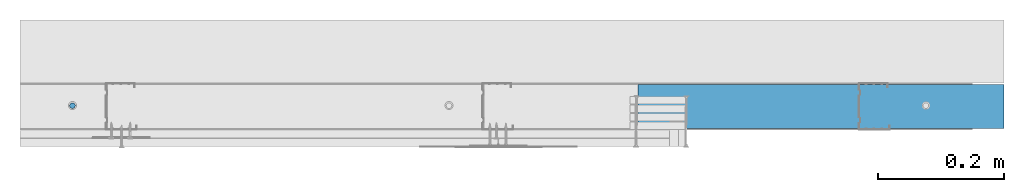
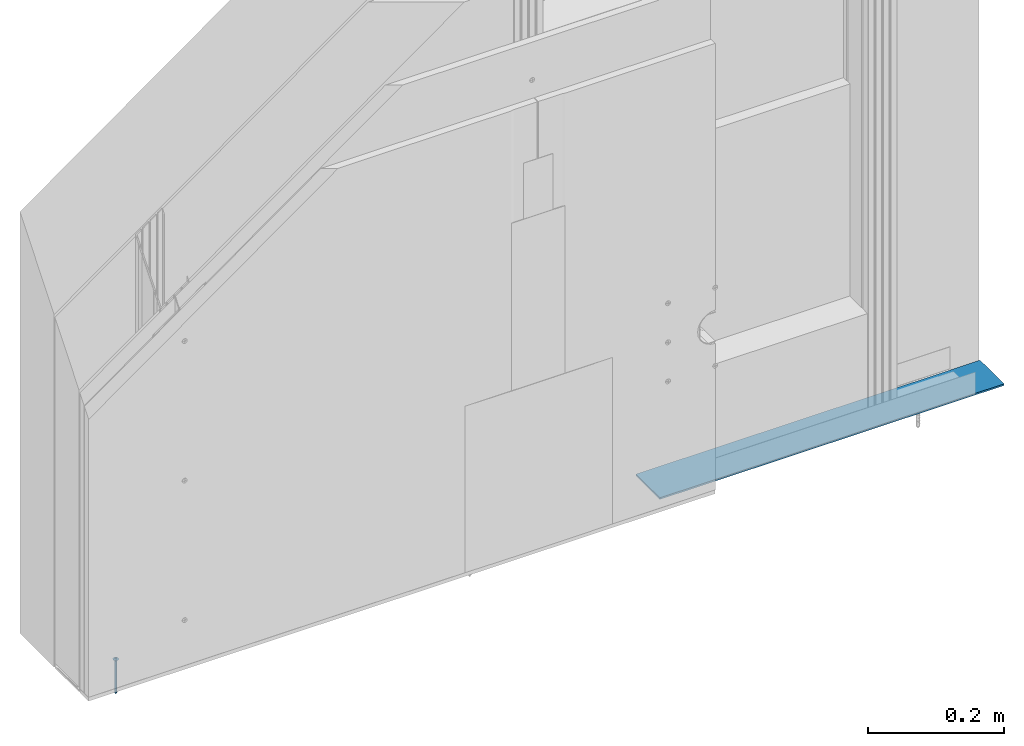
# One storey, part 4 of 32: 2 walls.
"""IFC2X3 building model written with IfcOpenShell, lengths in millimetres."""

from ifc_helpers import new_model, entity, si_unit, converted_unit, direction, frame, origin, origin_with_axes, place, context, project, spatial, faceted_brep, element, save


model = new_model("IFC2X3")

# Units and contexts
model_context = context("Model", 3, precision=1e-05, world=origin(), true_north=direction((0.0, 1.0, 0.0)))
ifc_project = project(units=[si_unit("LENGTHUNIT", "METRE", prefix="MILLI"), si_unit("AREAUNIT", "SQUARE_METRE"), si_unit("VOLUMEUNIT", "CUBIC_METRE"), converted_unit("PLANEANGLEUNIT", "DEGREE", entity("IfcPlaneAngleMeasure", 0.01745), si_unit("PLANEANGLEUNIT", "RADIAN"), dimensions=[0, 0, 0, 0, 0, 0, 0]), si_unit("SOLIDANGLEUNIT", "STERADIAN"), si_unit("MASSUNIT", "GRAM"), si_unit("TIMEUNIT", "SECOND"), si_unit("THERMODYNAMICTEMPERATUREUNIT", "DEGREE_CELSIUS"), si_unit("LUMINOUSINTENSITYUNIT", "LUMEN")], contexts=[model_context])

# Site, building, storey
site_placement = place(None, origin_with_axes())
site = spatial("IfcSite", under=ifc_project, at=site_placement, Name="Default Site", CompositionType="ELEMENT")
building_placement = place(site_placement, origin_with_axes())
building = spatial("IfcBuilding", under=site, at=building_placement, Name="Default Building", CompositionType="ELEMENT")
storey_placement = place(building_placement, origin_with_axes())
storey = spatial("IfcBuildingStorey", under=building, at=storey_placement, Name="Default Building Storey", CompositionType="ELEMENT", Elevation=0.0)

# Walls
wall_1_placement = place(storey_placement, frame((3642.454370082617, 5439.424146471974, 10.39039522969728), z_axis=(7.620176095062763e-14, -6.858158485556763e-13, 1.0), x_axis=(1.0, -9.714451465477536e-17, -7.620176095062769e-14)))
element("IfcWall", 1, at=wall_1_placement, inside=storey, Name="Kołek rozporowy min. fi 6", context=model_context, shape_type="Brep", body=[
    faceted_brep([(-1438.31414949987, -3453.283223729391, -0.4642567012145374), (-1435.814149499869, -3453.283223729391, -3.464256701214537), (-1435.78952618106, -3452.97035479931, -3.464256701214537), (-1438.258747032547, -3452.57926863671, -0.4642567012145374), (-1435.71626253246, -3452.665189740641, -3.464256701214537), (-1438.093903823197, -3451.892647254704, -0.4642567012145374), (-1435.596162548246, -3452.375242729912, -3.464256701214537), (-1437.823678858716, -3451.240266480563, -0.4642567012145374), (-1435.432183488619, -3452.107653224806, -3.464256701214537), (-1437.454725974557, -3450.638190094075, -0.4642567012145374), (-1435.228363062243, -3451.869010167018, -3.464256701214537), (-1436.996130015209, -3450.101243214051, -0.4642567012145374), (-1434.989720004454, -3451.665189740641, -3.464256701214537), (-1436.459183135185, -3449.642647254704, -0.4642567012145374), (-1434.722130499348, -3451.501210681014, -3.464256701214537), (-1435.857106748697, -3449.273694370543, -0.4642567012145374), (-1434.432183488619, -3451.381110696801, -3.464256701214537), (-1435.204725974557, -3449.003469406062, -0.4642567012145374), (-1434.12701842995, -3451.307847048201, -3.464256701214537), (-1434.51810459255, -3448.838626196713, -0.4642567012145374), (-1433.814149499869, -3451.283223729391, -3.464256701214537), (-1433.814149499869, -3448.783223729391, -0.4642567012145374), (-1433.501280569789, -3451.307847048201, -3.464256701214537), (-1433.110194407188, -3448.838626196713, -0.4642567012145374), (-1433.19611551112, -3451.381110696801, -3.464256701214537), (-1432.423573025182, -3449.003469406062, -0.4642567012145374), (-1432.906168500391, -3451.501210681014, -3.464256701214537), (-1431.771192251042, -3449.273694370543, -0.4642567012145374), (-1432.638578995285, -3451.665189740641, -3.464256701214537), (-1431.169115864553, -3449.642647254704, -0.4642567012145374), (-1432.399935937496, -3451.869010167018, -3.464256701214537), (-1430.63216898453, -3450.101243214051, -0.4642567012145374), (-1432.196115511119, -3452.107653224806, -3.464256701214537), (-1430.173573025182, -3450.638190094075, -0.4642567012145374), (-1432.032136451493, -3452.375242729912, -3.464256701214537), (-1429.804620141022, -3451.240266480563, -0.4642567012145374), (-1431.912036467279, -3452.665189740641, -3.464256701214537), (-1429.534395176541, -3451.892647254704, -0.4642567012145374), (-1431.838772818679, -3453.596092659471, -3.464256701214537), (-1429.369551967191, -3453.987178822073, -0.4642567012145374), (-1429.314149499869, -3453.283223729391, -0.4642567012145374), (-1431.81414949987, -3453.283223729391, -3.464256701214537), (-1429.369551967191, -3452.57926863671, -0.4642567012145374), (-1431.838772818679, -3452.97035479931, -3.464256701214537), (-1431.912036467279, -3453.901257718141, -3.464256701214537), (-1429.534395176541, -3454.673800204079, -0.4642567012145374), (-1432.032136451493, -3454.19120472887, -3.464256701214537), (-1429.804620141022, -3455.326180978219, -0.4642567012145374), (-1432.196115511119, -3454.458794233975, -3.464256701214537), (-1430.173573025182, -3455.928257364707, -0.4642567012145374), (-1432.399935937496, -3454.697437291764, -3.464256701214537), (-1430.63216898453, -3456.465204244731, -0.4642567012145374), (-1432.638578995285, -3454.901257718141, -3.464256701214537), (-1431.169115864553, -3456.923800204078, -0.4642567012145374), (-1432.906168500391, -3455.065236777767, -3.464256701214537), (-1431.771192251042, -3457.292753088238, -0.4642567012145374), (-1433.19611551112, -3455.185336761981, -3.464256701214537), (-1432.423573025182, -3457.562978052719, -0.4642567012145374), (-1433.501280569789, -3455.258600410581, -3.464256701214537), (-1433.110194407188, -3457.727821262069, -0.4642567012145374), (-1433.814149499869, -3455.283223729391, -3.464256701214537), (-1433.814149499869, -3457.783223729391, -0.4642567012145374), (-1434.34306778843, -3457.752031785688, -0.4642567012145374), (-1434.12701842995, -3455.258600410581, -3.464256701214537), (-1434.432183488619, -3455.185336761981, -3.464256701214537), (-1434.864653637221, -3457.658888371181, -0.4642567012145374), (-1435.371676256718, -3457.505084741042, -0.4642567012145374), (-1434.722130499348, -3455.065236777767, -3.464256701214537), (-1435.857106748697, -3457.292753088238, -0.4642567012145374), (-1434.989720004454, -3454.901257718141, -3.464256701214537), (-1435.228363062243, -3454.697437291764, -3.464256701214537), (-1436.314215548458, -3457.024836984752, -0.4642567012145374), (-1436.736665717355, -3456.705050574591, -0.4642567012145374), (-1437.11860079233, -3456.337827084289, -0.4642567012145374), (-1437.454725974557, -3455.928257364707, -0.4642567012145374), (-1435.432183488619, -3454.458794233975, -3.464256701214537), (-1435.596162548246, -3454.19120472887, -3.464256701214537), (-1437.823678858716, -3455.326180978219, -0.4642567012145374), (-1435.71626253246, -3453.901257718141, -3.464256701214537), (-1438.093903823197, -3454.673800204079, -0.4642567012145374), (-1435.78952618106, -3453.596092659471, -3.464256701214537), (-1438.258747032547, -3453.987178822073, -0.4642567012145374), (-1434.205235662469, -3455.752444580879, 0.2007375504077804), (-1433.814149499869, -3455.78322372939, 0.2007375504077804), (-1434.586691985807, -3455.660865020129, 0.2007375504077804), (-1434.949125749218, -3455.510740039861, 0.2007375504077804), (-1435.283612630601, -3455.305766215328, 0.2007375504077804), (-1435.581916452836, -3455.050990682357, 0.2007375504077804), (-1435.836691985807, -3454.752686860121, 0.2007375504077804), (-1436.04166581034, -3454.41819997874, 0.2007375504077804), (-1436.191790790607, -3454.055766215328, 0.2007375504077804), (-1436.283370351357, -3453.674309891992, 0.2007375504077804), (-1436.314149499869, -3453.283223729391, 0.2007375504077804), (-1436.283370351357, -3452.892137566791, 0.2007375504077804), (-1436.191790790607, -3452.510681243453, 0.2007375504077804), (-1436.04166581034, -3452.148247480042, 0.2007375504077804), (-1435.836691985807, -3451.81376059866, 0.200737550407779), (-1435.581916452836, -3451.515456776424, 0.2007375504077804), (-1435.283612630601, -3451.260681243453, 0.2007375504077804), (-1434.949125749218, -3451.05570741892, 0.2007375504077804), (-1434.586691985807, -3450.905582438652, 0.2007375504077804), (-1433.423063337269, -3450.814002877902, 0.2007375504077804), (-1433.814149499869, -3450.783223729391, 0.2007375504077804), (-1434.205235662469, -3450.814002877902, 0.2007375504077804), (-1433.041607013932, -3450.905582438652, 0.2007375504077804), (-1432.67917325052, -3451.05570741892, 0.2007375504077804), (-1432.344686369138, -3451.260681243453, 0.2007375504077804), (-1432.046382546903, -3451.515456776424, 0.2007375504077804), (-1431.791607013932, -3451.81376059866, 0.2007375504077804), (-1431.586633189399, -3452.148247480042, 0.2007375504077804), (-1431.436508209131, -3452.510681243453, 0.2007375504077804), (-1431.344928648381, -3452.892137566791, 0.2007375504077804), (-1431.314149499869, -3453.283223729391, 0.2007375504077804), (-1431.344928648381, -3453.674309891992, 0.2007375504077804), (-1431.436508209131, -3454.055766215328, 0.2007375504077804), (-1431.586633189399, -3454.41819997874, 0.2007375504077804), (-1431.791607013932, -3454.752686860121, 0.2007375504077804), (-1432.046382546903, -3455.050990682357, 0.2007375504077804), (-1432.344686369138, -3455.305766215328, 0.2007375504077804), (-1432.67917325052, -3455.510740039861, 0.2007375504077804), (-1433.041607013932, -3455.660865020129, 0.2007375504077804), (-1433.423063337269, -3455.752444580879, 0.2007375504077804), (-1433.814149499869, -3453.283223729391, -63.46425670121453), (-1435.789526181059, -3452.97035479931, -60.46425670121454), (-1435.814149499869, -3453.283223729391, -60.46425670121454), (-1435.716262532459, -3452.665189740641, -60.46425670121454), (-1435.596162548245, -3452.375242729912, -60.46425670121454), (-1435.432183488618, -3452.107653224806, -60.46425670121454), (-1435.228363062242, -3451.869010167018, -60.46425670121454), (-1434.989720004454, -3451.665189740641, -60.46425670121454), (-1434.722130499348, -3451.501210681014, -60.46425670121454), (-1434.432183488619, -3451.381110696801, -60.46425670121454), (-1434.127018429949, -3451.307847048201, -60.46425670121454), (-1433.814149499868, -3451.283223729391, -60.46425670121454), (-1433.501280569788, -3451.307847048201, -60.46425670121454), (-1433.196115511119, -3451.381110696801, -60.46425670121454), (-1432.90616850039, -3451.501210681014, -60.46425670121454), (-1432.638578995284, -3451.665189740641, -60.46425670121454), (-1432.399935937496, -3451.869010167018, -60.46425670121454), (-1432.196115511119, -3452.107653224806, -60.46425670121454), (-1432.032136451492, -3452.375242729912, -60.46425670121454), (-1431.912036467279, -3452.665189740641, -60.46425670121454), (-1431.838772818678, -3452.97035479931, -60.46425670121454), (-1431.814149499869, -3453.283223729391, -60.46425670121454), (-1431.838772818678, -3453.596092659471, -60.46425670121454), (-1431.912036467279, -3453.901257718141, -60.46425670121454), (-1432.032136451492, -3454.19120472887, -60.46425670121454), (-1432.196115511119, -3454.458794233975, -60.46425670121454), (-1432.399935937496, -3454.697437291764, -60.46425670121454), (-1432.638578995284, -3454.901257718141, -60.46425670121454), (-1432.90616850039, -3455.065236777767, -60.46425670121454), (-1433.196115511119, -3455.185336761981, -60.46425670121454), (-1433.501280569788, -3455.258600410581, -60.46425670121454), (-1433.814149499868, -3455.283223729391, -60.46425670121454), (-1434.127018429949, -3455.258600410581, -60.46425670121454), (-1434.432183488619, -3455.185336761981, -60.46425670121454), (-1434.722130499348, -3455.065236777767, -60.46425670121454), (-1434.989720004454, -3454.901257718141, -60.46425670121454), (-1435.228363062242, -3454.697437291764, -60.46425670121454), (-1435.432183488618, -3454.458794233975, -60.46425670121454), (-1435.596162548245, -3454.19120472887, -60.46425670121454), (-1435.716262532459, -3453.901257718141, -60.46425670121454), (-1435.789526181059, -3453.596092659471, -60.46425670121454), (-1435.814149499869, -3453.783223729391, 0.04999999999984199), (-1436.04166581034, -3454.41819997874, 0.04999999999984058), (-1436.191790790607, -3454.055766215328, 0.04999999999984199), (-1435.814149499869, -3452.783223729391, 0.04999999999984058), (-1434.314149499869, -3453.783223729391, 0.04999999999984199), (-1434.314149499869, -3455.28322372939, 0.04999999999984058), (-1433.314149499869, -3455.28322372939, 0.04999999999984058), (-1433.314149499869, -3453.783223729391, 0.04999999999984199), (-1431.814149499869, -3453.783223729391, 0.04999999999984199), (-1431.814149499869, -3452.783223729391, 0.04999999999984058), (-1433.314149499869, -3452.783223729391, 0.04999999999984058), (-1433.314149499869, -3451.283223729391, 0.04999999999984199), (-1434.314149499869, -3451.283223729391, 0.04999999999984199), (-1434.314149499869, -3452.783223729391, 0.04999999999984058), (-1436.283370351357, -3453.674309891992, 0.04999999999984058), (-1436.314149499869, -3453.283223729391, 0.04999999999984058), (-1436.283370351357, -3452.892137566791, 0.04999999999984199), (-1436.191790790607, -3452.510681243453, 0.04999999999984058), (-1436.04166581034, -3452.148247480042, 0.04999999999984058), (-1435.836691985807, -3451.81376059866, 0.04999999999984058), (-1435.581916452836, -3451.515456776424, 0.04999999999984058), (-1435.283612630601, -3451.260681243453, 0.04999999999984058), (-1434.949125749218, -3451.05570741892, 0.04999999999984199), (-1434.586691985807, -3450.905582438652, 0.04999999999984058), (-1434.205235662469, -3450.814002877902, 0.04999999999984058), (-1433.814149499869, -3450.783223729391, 0.04999999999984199), (-1433.423063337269, -3450.814002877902, 0.04999999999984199), (-1433.041607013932, -3450.905582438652, 0.04999999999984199), (-1432.67917325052, -3451.05570741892, 0.04999999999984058), (-1432.344686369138, -3451.260681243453, 0.04999999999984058), (-1432.046382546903, -3451.515456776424, 0.04999999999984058), (-1431.791607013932, -3451.81376059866, 0.04999999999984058), (-1431.586633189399, -3452.148247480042, 0.04999999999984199), (-1431.436508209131, -3452.510681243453, 0.04999999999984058), (-1431.344928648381, -3452.892137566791, 0.04999999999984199), (-1431.314149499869, -3453.283223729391, 0.04999999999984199), (-1431.344928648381, -3453.674309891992, 0.04999999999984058), (-1431.436508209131, -3454.055766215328, 0.04999999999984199), (-1431.586633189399, -3454.41819997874, 0.04999999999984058), (-1431.791607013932, -3454.752686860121, 0.04999999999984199), (-1432.046382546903, -3455.050990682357, 0.04999999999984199), (-1432.344686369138, -3455.305766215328, 0.04999999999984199), (-1432.67917325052, -3455.510740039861, 0.04999999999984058), (-1433.041607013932, -3455.660865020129, 0.04999999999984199), (-1433.423063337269, -3455.752444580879, 0.04999999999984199), (-1433.814149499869, -3455.78322372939, 0.04999999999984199), (-1434.205235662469, -3455.752444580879, 0.04999999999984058), (-1434.586691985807, -3455.660865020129, 0.04999999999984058), (-1434.949125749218, -3455.510740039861, 0.04999999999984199), (-1435.283612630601, -3455.305766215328, 0.04999999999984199), (-1435.581916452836, -3455.050990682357, 0.04999999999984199), (-1435.836691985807, -3454.752686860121, 0.04999999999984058), (-1434.314149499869, -3452.783223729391, -1.79926244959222), (-1434.314149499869, -3451.283223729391, -1.799262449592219), (-1433.314149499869, -3451.283223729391, -1.799262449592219), (-1433.314149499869, -3452.783223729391, -1.79926244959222), (-1431.81414949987, -3452.783223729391, -1.79926244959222), (-1431.81414949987, -3453.783223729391, -1.799262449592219), (-1433.314149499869, -3453.783223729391, -1.799262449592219), (-1433.314149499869, -3455.28322372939, -1.79926244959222), (-1434.314149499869, -3455.28322372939, -1.79926244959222), (-1434.314149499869, -3453.783223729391, -1.799262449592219), (-1435.814149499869, -3453.783223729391, -1.799262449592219), (-1435.814149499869, -3452.783223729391, -1.79926244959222)], [[[0, 1, 2, 3]], [[4, 5, 3, 2]], [[6, 7, 5, 4]], [[7, 6, 8, 9]], [[10, 11, 9, 8]], [[11, 10, 12, 13]], [[14, 15, 13, 12]], [[16, 17, 15, 14]], [[17, 16, 18, 19]], [[20, 21, 19, 18]], [[21, 20, 22, 23]], [[24, 25, 23, 22]], [[26, 27, 25, 24]], [[27, 26, 28, 29]], [[30, 31, 29, 28]], [[31, 30, 32, 33]], [[34, 35, 33, 32]], [[36, 37, 35, 34]], [[38, 39, 40, 41]], [[41, 40, 42, 43]], [[37, 36, 43, 42]], [[44, 45, 39, 38]], [[46, 47, 45, 44]], [[47, 46, 48, 49]], [[50, 51, 49, 48]], [[51, 50, 52, 53]], [[54, 55, 53, 52]], [[56, 57, 55, 54]], [[57, 56, 58, 59]], [[60, 61, 59, 58]], [[62, 61, 63]], [[61, 60, 63]], [[63, 64, 62]], [[64, 65, 62]], [[66, 65, 64]], [[64, 67, 66]], [[67, 68, 66]], [[69, 70, 71]], [[70, 72, 71]], [[71, 68, 69]], [[68, 67, 69]], [[70, 73, 72]], [[74, 73, 75]], [[73, 70, 75]], [[76, 77, 74, 75]], [[78, 79, 77, 76]], [[79, 78, 80, 81]], [[1, 0, 81, 80]], [[82, 83, 62]], [[83, 61, 62]], [[62, 65, 82]], [[65, 84, 82]], [[66, 68, 84]], [[68, 85, 84]], [[84, 65, 66]], [[86, 85, 71]], [[85, 68, 71]], [[72, 73, 87]], [[87, 86, 72]], [[86, 71, 72]], [[88, 87, 74]], [[87, 73, 74]], [[77, 89, 88, 74]], [[79, 90, 89, 77]], [[90, 79, 81, 91]], [[0, 92, 91, 81]], [[92, 0, 3, 93]], [[5, 94, 93, 3]], [[7, 95, 94, 5]], [[95, 7, 9, 96]], [[11, 97, 96, 9]], [[97, 11, 13, 98]], [[15, 99, 98, 13]], [[17, 100, 99, 15]], [[23, 101, 102, 21]], [[21, 102, 103, 19]], [[100, 17, 19, 103]], [[25, 104, 101, 23]], [[27, 105, 104, 25]], [[105, 27, 29, 106]], [[31, 107, 106, 29]], [[107, 31, 33, 108]], [[35, 109, 108, 33]], [[37, 110, 109, 35]], [[110, 37, 42, 111]], [[40, 112, 111, 42]], [[112, 40, 39, 113]], [[45, 114, 113, 39]], [[47, 115, 114, 45]], [[115, 47, 49, 116]], [[51, 117, 116, 49]], [[117, 51, 53, 118]], [[55, 119, 118, 53]], [[57, 120, 119, 55]], [[120, 57, 59, 121]], [[61, 83, 121, 59]], [[122, 123, 124]], [[122, 125, 123]], [[122, 126, 125]], [[127, 126, 122]], [[122, 128, 127]], [[129, 128, 122]], [[122, 130, 129]], [[122, 131, 130]], [[132, 131, 122]], [[122, 133, 132]], [[134, 133, 122]], [[122, 135, 134]], [[122, 136, 135]], [[137, 136, 122]], [[122, 138, 137]], [[139, 138, 122]], [[122, 140, 139]], [[122, 141, 140]], [[142, 141, 122]], [[122, 143, 142]], [[144, 143, 122]], [[122, 145, 144]], [[122, 146, 145]], [[147, 146, 122]], [[122, 148, 147]], [[149, 148, 122]], [[122, 150, 149]], [[122, 151, 150]], [[152, 151, 122]], [[122, 153, 152]], [[154, 153, 122]], [[122, 155, 154]], [[122, 156, 155]], [[157, 156, 122]], [[122, 158, 157]], [[159, 158, 122]], [[122, 160, 159]], [[122, 161, 160]], [[162, 161, 122]], [[124, 162, 122]], [[1, 124, 123, 2]], [[125, 4, 2, 123]], [[126, 6, 4, 125]], [[6, 126, 127, 8]], [[128, 10, 8, 127]], [[10, 128, 129, 12]], [[130, 14, 12, 129]], [[131, 16, 14, 130]], [[16, 131, 132, 18]], [[133, 20, 18, 132]], [[20, 133, 134, 22]], [[135, 24, 22, 134]], [[136, 26, 24, 135]], [[26, 136, 137, 28]], [[138, 30, 28, 137]], [[30, 138, 139, 32]], [[140, 34, 32, 139]], [[141, 36, 34, 140]], [[144, 38, 41, 143]], [[143, 41, 43, 142]], [[36, 141, 142, 43]], [[145, 44, 38, 144]], [[146, 46, 44, 145]], [[46, 146, 147, 48]], [[148, 50, 48, 147]], [[50, 148, 149, 52]], [[150, 54, 52, 149]], [[151, 56, 54, 150]], [[56, 151, 152, 58]], [[153, 60, 58, 152]], [[60, 153, 154, 63]], [[155, 64, 63, 154]], [[156, 67, 64, 155]], [[67, 156, 157, 69]], [[158, 70, 69, 157]], [[70, 158, 159, 75]], [[160, 76, 75, 159]], [[161, 78, 76, 160]], [[78, 161, 162, 80]], [[124, 1, 80, 162]], [[163, 164, 165, 166]], [[163, 167, 168, 169, 170, 171, 172, 173, 174, 175, 176, 166, 165, 177, 178, 179, 180, 181, 182, 183, 184, 185, 186, 187, 188, 189, 190, 191, 192, 193, 194, 195, 196, 197, 198, 199, 200, 201, 202, 203, 204, 205, 206, 207, 208, 209, 210, 211, 212, 213, 214, 164]], [[199, 198, 112, 113]], [[113, 114, 200, 199]], [[114, 115, 201, 200]], [[202, 201, 115, 116]], [[116, 117, 203, 202]], [[204, 203, 117, 118]], [[118, 119, 205, 204]], [[119, 120, 206, 205]], [[207, 206, 120, 121]], [[121, 83, 208, 207]], [[209, 208, 83, 82]], [[82, 84, 210, 209]], [[84, 85, 211, 210]], [[212, 211, 85, 86]], [[86, 87, 213, 212]], [[214, 213, 87, 88]], [[88, 89, 164, 214]], [[89, 90, 165, 164]], [[92, 93, 179, 178]], [[91, 92, 178, 177]], [[177, 165, 90, 91]], [[93, 94, 180, 179]], [[94, 95, 181, 180]], [[182, 181, 95, 96]], [[96, 97, 183, 182]], [[184, 183, 97, 98]], [[98, 99, 185, 184]], [[99, 100, 186, 185]], [[187, 186, 100, 103]], [[103, 102, 188, 187]], [[189, 188, 102, 101]], [[101, 104, 190, 189]], [[104, 105, 191, 190]], [[192, 191, 105, 106]], [[106, 107, 193, 192]], [[194, 193, 107, 108]], [[108, 109, 195, 194]], [[109, 110, 196, 195]], [[197, 196, 110, 111]], [[111, 112, 198, 197]], [[215, 216, 217, 218, 219, 220, 221, 222, 223, 224, 225, 226]], [[216, 175, 174, 217]], [[215, 176, 175, 216]], [[226, 166, 176, 215]], [[225, 163, 166, 226]], [[224, 167, 163, 225]], [[223, 168, 167, 224]], [[222, 169, 168, 223]], [[221, 170, 169, 222]], [[220, 171, 170, 221]], [[219, 172, 171, 220]], [[218, 173, 172, 219]], [[217, 174, 173, 218]]]),
])
wall_2_placement = place(storey_placement, frame((2809.694246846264, 1992.890922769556, 2.384025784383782), z_axis=(0.0, 0.0, 1.0), x_axis=(1.0, 0.0, 0.0)))
element("IfcWall", 2, at=wall_2_placement, inside=storey, Name="Taśma uszczelniająca piankowa RIGIPS", context=model_context, shape_type="Brep", body=[
    faceted_brep([(300.0251334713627, -43.50000002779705, 2.998418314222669), (883.3463713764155, -43.50000002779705, 2.998418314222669), (883.3463713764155, 26.69999997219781, 3.001783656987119), (300.0251334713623, 26.69999997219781, 3.001783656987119), (300.0251334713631, -43.50000002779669, -2.129427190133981e-12), (883.3463713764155, -43.50000002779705, -2.129427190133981e-12), (300.0251334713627, 26.69999997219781, 0.001783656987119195), (883.3463713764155, 26.69999997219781, 0.001783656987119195)], [[[0, 1, 2, 3]], [[1, 0, 4, 5]], [[5, 4, 6, 7]], [[3, 6, 4, 0]], [[7, 6, 3, 2]], [[2, 1, 5, 7]]]),
])

save(model, "model.ifc")
